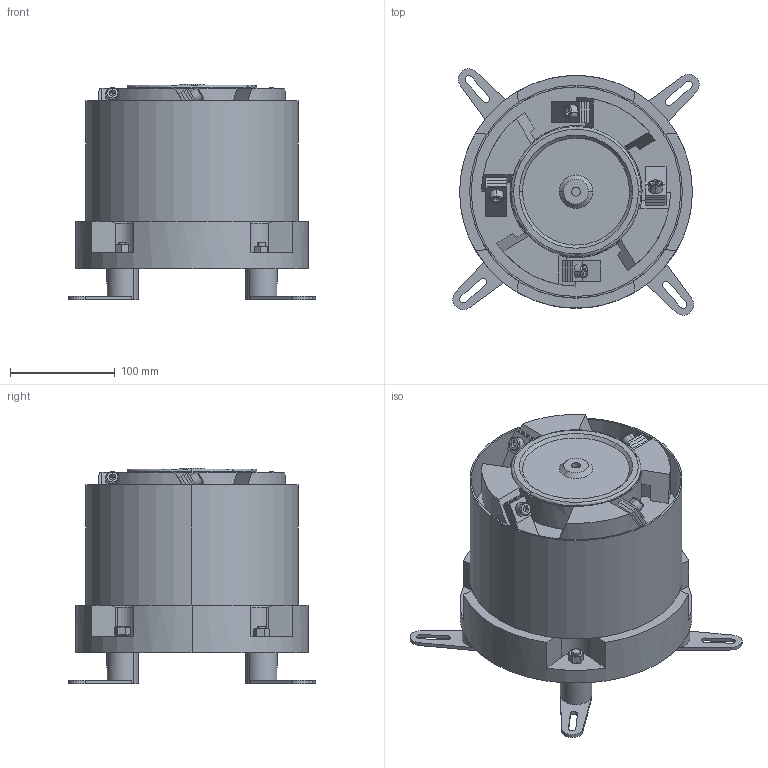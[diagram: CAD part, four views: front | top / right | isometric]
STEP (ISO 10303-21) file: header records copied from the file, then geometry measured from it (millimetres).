
FILE_DESCRIPTION(/* description */ (''),/* implementation_level */ '2;1');
FILE_NAME(/* name */ 'DE200 铝盖.stp',/* time_stamp */ '2025-07-17T20:50:11+08:00',/* author */ (''),/* organization */ (''),/* preprocessor_version */ 'ST-DEVELOPER v18.102',/* originating_system */ 'SIEMENS PLM Software NX2206.1700',/* authorisation */ '');
FILE_SCHEMA (('AP203_CONFIGURATION_CONTROLLED_3D_DESIGN_OF_MECHANICAL_PARTS_AND_ASSEMBLIES_MIM_LF { 1 0 10303 403 2 1 2}'));
Length unit declared in the file: millimetre
Products named in the file (1): DE200  铝盖 2023_stp_objects
Bounding box: 234.96 x 234.96 x 206 mm (x, y, z)
Volume: 4019802.5 mm3; surface area: 462204.7 mm2
Topology: 31 solids, 35 shells, 569 faces, 1305 edges, 830 vertices
Faces by surface type: plane 294, cylinder 170, cone 78, torus 27
Full cylindrical faces by diameter (mm): 8.5 x1, 23.011 x4
Entity records: 17265 total; most frequent: CARTESIAN_POINT 3857, DIRECTION 2803, ORIENTED_EDGE 2590, EDGE_CURVE 1295, AXIS2_PLACEMENT_3D 1071, VERTEX_POINT 833, EDGE_LOOP 666, LINE 661
